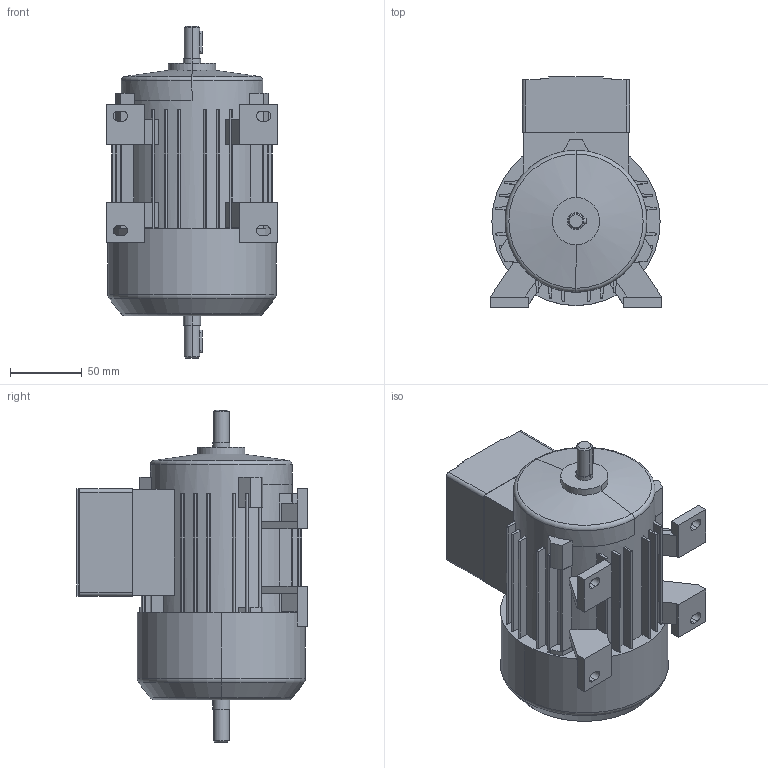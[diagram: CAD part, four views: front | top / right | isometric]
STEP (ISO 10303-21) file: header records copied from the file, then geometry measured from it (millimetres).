
FILE_DESCRIPTION((''),'2;1');
FILE_NAME('1LA7060-2AA10-Z-K16_PRT','2002-04-12T',('martin könig'),(''),'PRO/ENGINEER BY PARAMETRIC TECHNOLOGY CORPORATION, 2002030','PRO/ENGINEER BY PARAMETRIC TECHNOLOGY CORPORATION, 2002030','');
FILE_SCHEMA(('CONFIG_CONTROL_DESIGN'));
Length unit declared in the file: millimetre
Products named in the file (1): 1LA7060-2AA10-Z-K16_PRT
Bounding box: 120 x 161 x 232 mm (x, y, z)
Volume: 1849987.1 mm3; surface area: 130070.7 mm2
Topology: 1 solids, 1 shells, 287 faces, 801 edges, 525 vertices
Faces by surface type: plane 198, cylinder 75, cone 8, torus 6
Entity records: 9335 total; most frequent: CARTESIAN_POINT 1689, DIRECTION 1605, ORIENTED_EDGE 1602, EDGE_CURVE 801, VECTOR 563, LINE 563, VERTEX_POINT 525, AXIS2_PLACEMENT_3D 521
